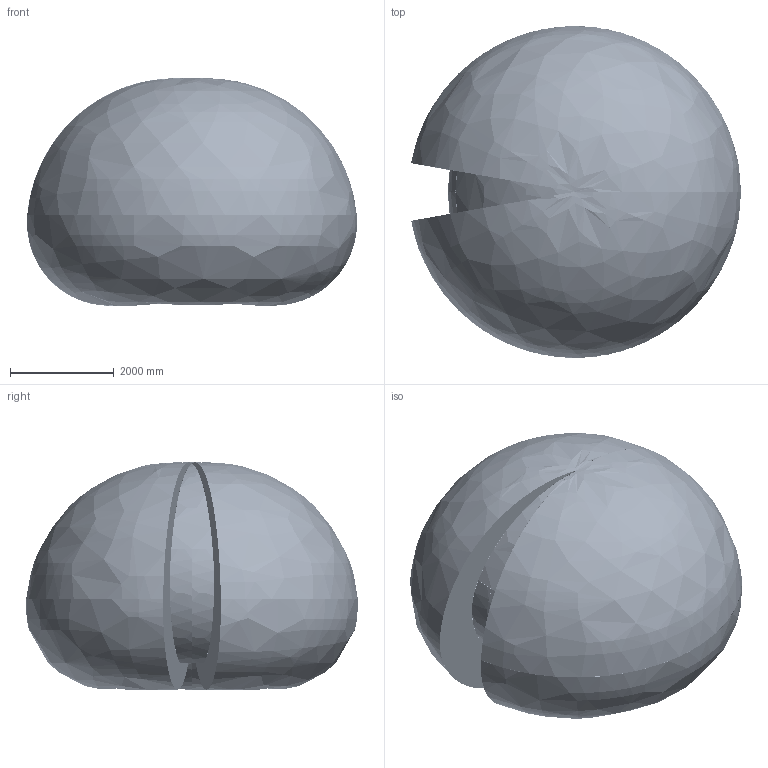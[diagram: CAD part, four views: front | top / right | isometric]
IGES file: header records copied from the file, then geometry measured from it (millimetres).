
Start section: SolidWorks IGES file using analytic representation for surfaces
Global section: file name: C:\Data\SAP_DOC\LW\IRB 6720\IRB6720_160kg-320_OC_01_SW_J\IRB6720_160kg-320_OC_01_IGES_J\IRB6720_160kg-320_OC_01_ASM_CAD.igs; native system: SolidWorks 2024; preprocessor: SolidWorks 2024; author: SEJOVAS3; date: 260610.124123; units: millimetre
Bounding box: 6351.41 x 6384.27 x 4371.64 mm (x, y, z)
Surface area: 145924528.9 mm2 (no closed solid volume)
Topology: 0 solids, 0 shells, 7619 faces, 119886 edges, 119719 vertices
Faces by surface type: bspline 4376, revolution 3243
